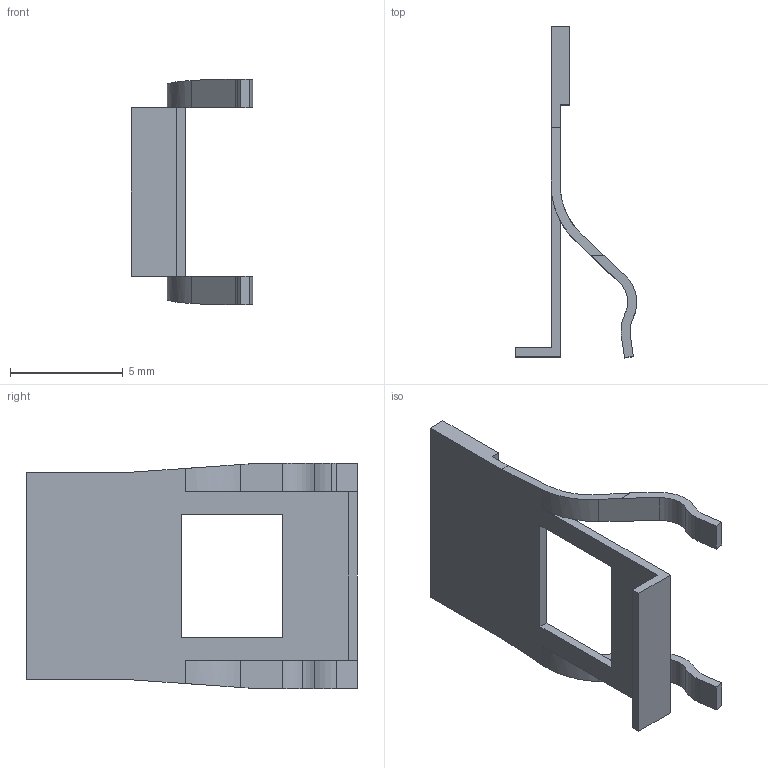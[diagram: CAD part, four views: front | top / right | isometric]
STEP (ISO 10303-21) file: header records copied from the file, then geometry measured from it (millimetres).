
FILE_DESCRIPTION (( 'STEP AP214' ), '1' );
FILE_NAME ('Winkelbegrenzung 85_Click _on_110_120_S380302100.STEP', '2010-11-16T08:52:55', ( 'grass' ), ( '' ), 'SwSTEP 2.0', 'SolidWorks 2010', '' );
FILE_SCHEMA (( 'AUTOMOTIVE_DESIGN' ));
Length unit declared in the file: millimetre
Products named in the file (1): Winkelbegrenzung 85_Click _on_110_120_S380302100
Bounding box: 5.4 x 14.74 x 10 mm (x, y, z)
Volume: 65.5 mm3; surface area: 314.6 mm2
Topology: 1 solids, 1 shells, 48 faces, 136 edges, 90 vertices
Faces by surface type: plane 32, cylinder 16
Entity records: 1592 total; most frequent: CARTESIAN_POINT 287, ORIENTED_EDGE 272, DIRECTION 260, EDGE_CURVE 136, LINE 102, VECTOR 102, VERTEX_POINT 90, AXIS2_PLACEMENT_3D 79
